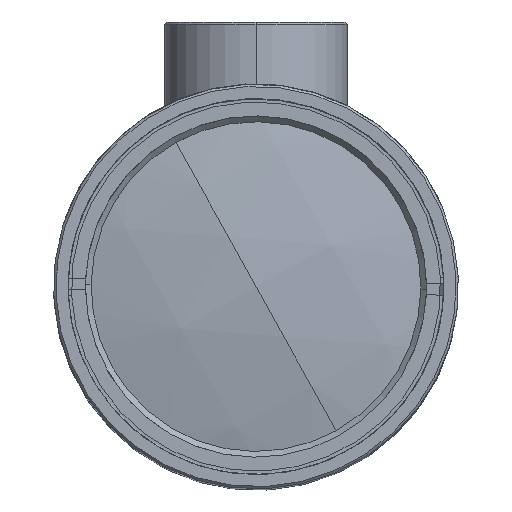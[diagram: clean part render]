
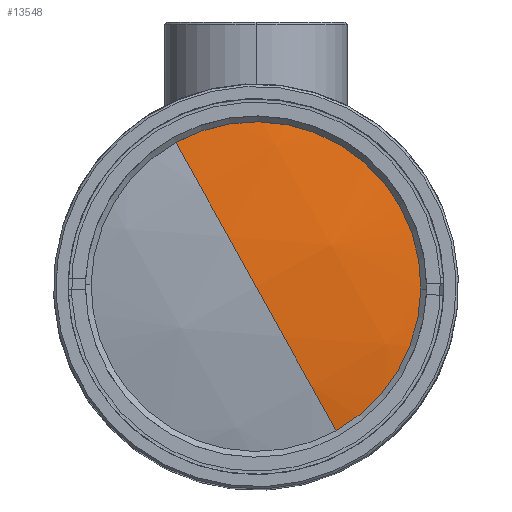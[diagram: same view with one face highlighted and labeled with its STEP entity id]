
A CAD part, top view. The second image highlights one B-rep face of the part: STEP entity #13548.
In plain terms, the highlighted spherical face has radius 64.6 mm.
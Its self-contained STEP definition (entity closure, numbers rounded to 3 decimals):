
#328 = CARTESIAN_POINT ( 'NONE',  ( 12.882, 7.159, 146.058 ) ) ;
#891 = CARTESIAN_POINT ( 'NONE',  ( 0., 0., 147.762 ) ) ;
#1338 = CIRCLE ( 'NONE', #10525, 14.738 ) ;
#3031 = EDGE_CURVE ( 'NONE', #24017, #8477, #23850, .T. ) ;
#3294 = CARTESIAN_POINT ( 'NONE',  ( 0., 0., 83.162 ) ) ;
#3417 = VERTEX_POINT ( 'NONE', #891 ) ;
#3804 = FACE_OUTER_BOUND ( 'NONE', #22750, .T. ) ;
#4769 = EDGE_CURVE ( 'NONE', #13155, #3417, #25190, .T. ) ;
#6075 = SPHERICAL_SURFACE ( 'NONE', #13742, 64.6 ) ;
#7131 = CARTESIAN_POINT ( 'NONE',  ( 0., 0., 83.162 ) ) ;
#7756 = EDGE_CURVE ( 'NONE', #8477, #3417, #13788, .T. ) ;
#8016 = AXIS2_PLACEMENT_3D ( 'NONE', #23803, #18169, #20111 ) ;
#8477 = VERTEX_POINT ( 'NONE', #15172 ) ;
#9014 = CARTESIAN_POINT ( 'NONE',  ( 7.159, -12.882, 146.058 ) ) ;
#9455 = DIRECTION ( 'NONE',  ( -0.874, -0.486, 0. ) ) ;
#10091 = DIRECTION ( 'NONE',  ( -0.874, -0.486, 0. ) ) ;
#10458 = CARTESIAN_POINT ( 'NONE',  ( 0., 0., 83.162 ) ) ;
#10525 = AXIS2_PLACEMENT_3D ( 'NONE', #27167, #25105, #10091 ) ;
#11467 = ORIENTED_EDGE ( 'NONE', *, *, #19872, .T. ) ;
#13155 = VERTEX_POINT ( 'NONE', #9014 ) ;
#13548 = ADVANCED_FACE ( 'NONE', ( #3804 ), #6075, .T. ) ;
#13742 = AXIS2_PLACEMENT_3D ( 'NONE', #10458, #18905, #25198 ) ;
#13788 = CIRCLE ( 'NONE', #18176, 64.6 ) ;
#14258 = ORIENTED_EDGE ( 'NONE', *, *, #7756, .T. ) ;
#15172 = CARTESIAN_POINT ( 'NONE',  ( -7.159, 12.882, 146.058 ) ) ;
#17877 = DIRECTION ( 'NONE',  ( 0.486, -0.874, 0. ) ) ;
#18169 = DIRECTION ( 'NONE',  ( 0., 0., 1. ) ) ;
#18176 = AXIS2_PLACEMENT_3D ( 'NONE', #7131, #21635, #19421 ) ;
#18905 = DIRECTION ( 'NONE',  ( -0.874, -0.486, 0. ) ) ;
#19068 = AXIS2_PLACEMENT_3D ( 'NONE', #3294, #9455, #17877 ) ;
#19421 = DIRECTION ( 'NONE',  ( -0.486, 0.874, 0. ) ) ;
#19872 = EDGE_CURVE ( 'NONE', #13155, #24017, #1338, .T. ) ;
#20111 = DIRECTION ( 'NONE',  ( -0.874, -0.486, 0. ) ) ;
#21364 = ORIENTED_EDGE ( 'NONE', *, *, #3031, .T. ) ;
#21635 = DIRECTION ( 'NONE',  ( 0.874, 0.486, 0. ) ) ;
#22610 = ORIENTED_EDGE ( 'NONE', *, *, #4769, .F. ) ;
#22750 = EDGE_LOOP ( 'NONE', ( #22610, #11467, #21364, #14258 ) ) ;
#23803 = CARTESIAN_POINT ( 'NONE',  ( 0., 0., 146.058 ) ) ;
#23850 = CIRCLE ( 'NONE', #8016, 14.738 ) ;
#24017 = VERTEX_POINT ( 'NONE', #328 ) ;
#25105 = DIRECTION ( 'NONE',  ( 0., 0., 1. ) ) ;
#25190 = CIRCLE ( 'NONE', #19068, 64.6 ) ;
#25198 = DIRECTION ( 'NONE',  ( -0.486, 0.874, 0. ) ) ;
#27167 = CARTESIAN_POINT ( 'NONE',  ( 0., 0., 146.058 ) ) ;
